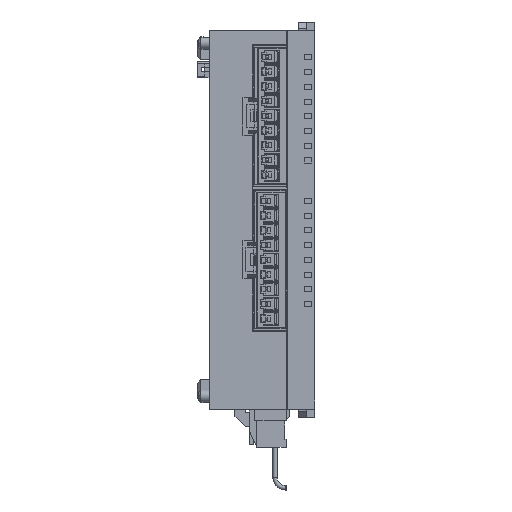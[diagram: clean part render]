
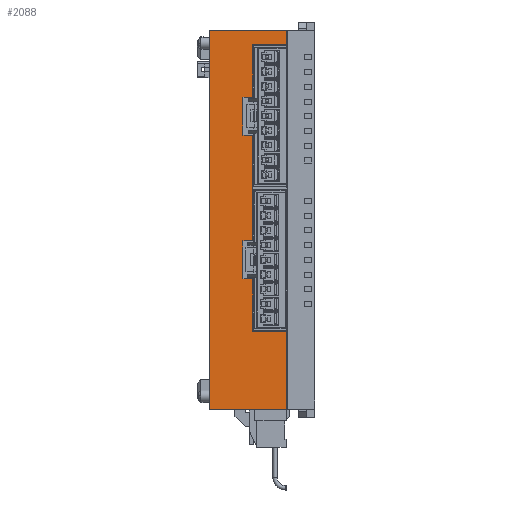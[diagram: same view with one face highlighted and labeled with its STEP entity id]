
A CAD part, top view. The second image highlights one B-rep face of the part: STEP entity #2088.
In plain terms, the highlighted planar face has unit normal (0, 0, 1).
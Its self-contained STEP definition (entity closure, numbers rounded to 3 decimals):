
#262 = EDGE_CURVE ( 'NONE', #370, #2444, #47077, .T. ) ;
#370 = VERTEX_POINT ( 'NONE', #47209 ) ;
#1053 = VERTEX_POINT ( 'NONE', #48413 ) ;
#2047 = ORIENTED_EDGE ( 'NONE', *, *, #2054, .F. ) ;
#2054 = EDGE_CURVE ( 'NONE', #2141, #2056, #50038, .T. ) ;
#2056 = VERTEX_POINT ( 'NONE', #49974 ) ;
#2058 = ORIENTED_EDGE ( 'NONE', *, *, #17627, .F. ) ;
#2069 = VERTEX_POINT ( 'NONE', #49995 ) ;
#2088 = ADVANCED_FACE ( 'NONE', ( #50078 ), #50080, .T. ) ;
#2127 = VERTEX_POINT ( 'NONE', #50150 ) ;
#2141 = VERTEX_POINT ( 'NONE', #50169 ) ;
#2144 = EDGE_LOOP ( 'NONE', ( #2058, #2047, #17374, #16766, #16873, #16937, #17894, #18002, #17935, #17515, #18867, #18725, #17595, #18564, #18030, #17865 ) ) ;
#2145 = EDGE_CURVE ( 'NONE', #2170, #16803, #50167, .T. ) ;
#2158 = VERTEX_POINT ( 'NONE', #50193 ) ;
#2170 = VERTEX_POINT ( 'NONE', #50247 ) ;
#2444 = VERTEX_POINT ( 'NONE', #50545 ) ;
#2658 = EDGE_CURVE ( 'NONE', #28044, #2444, #50964, .T. ) ;
#4833 = DIRECTION ( 'NONE',  ( 1., 0., 0. ) ) ;
#4843 = VECTOR ( 'NONE', #4867, 1000. ) ;
#4867 = DIRECTION ( 'NONE',  ( -1., 0., 0. ) ) ;
#5108 = CARTESIAN_POINT ( 'NONE',  ( -2.3, -26.6, 60. ) ) ;
#5109 = LINE ( 'NONE', #5108, #5120 ) ;
#5120 = VECTOR ( 'NONE', #4833, 1000. ) ;
#6369 = DIRECTION ( 'NONE',  ( -1., 0., 0. ) ) ;
#6370 = VECTOR ( 'NONE', #6369, 1000. ) ;
#6371 = CARTESIAN_POINT ( 'NONE',  ( -2.3, -5.05, 60. ) ) ;
#6372 = LINE ( 'NONE', #6371, #6370 ) ;
#6387 = CARTESIAN_POINT ( 'NONE',  ( -4.6, 29.05, 60. ) ) ;
#6419 = DIRECTION ( 'NONE',  ( 0., -1., 0. ) ) ;
#6420 = VECTOR ( 'NONE', #6419, 1000. ) ;
#6421 = CARTESIAN_POINT ( 'NONE',  ( -4.6, 29.05, 60. ) ) ;
#6422 = LINE ( 'NONE', #6421, #6420 ) ;
#6468 = CARTESIAN_POINT ( 'NONE',  ( -2.3, -5.05, 60. ) ) ;
#6475 = CARTESIAN_POINT ( 'NONE',  ( -4.6, 20.05, 60. ) ) ;
#6488 = DIRECTION ( 'NONE',  ( 1., 0., 0. ) ) ;
#6489 = VECTOR ( 'NONE', #6488, 1000. ) ;
#6490 = CARTESIAN_POINT ( 'NONE',  ( -4.6, -14.05, 60. ) ) ;
#6495 = LINE ( 'NONE', #6490, #6489 ) ;
#6502 = LINE ( 'NONE', #6507, #4843 ) ;
#6507 = CARTESIAN_POINT ( 'NONE',  ( 5.8, 41.6, 60. ) ) ;
#6510 = DIRECTION ( 'NONE',  ( 0., -1., 0. ) ) ;
#6511 = VECTOR ( 'NONE', #6510, 1000. ) ;
#6513 = CARTESIAN_POINT ( 'NONE',  ( -4.6, -5.05, 60. ) ) ;
#6514 = LINE ( 'NONE', #6513, #6511 ) ;
#6542 = LINE ( 'NONE', #6548, #6600 ) ;
#6544 = DIRECTION ( 'NONE',  ( 0., -1., 0. ) ) ;
#6545 = VECTOR ( 'NONE', #6544, 1000. ) ;
#6547 = DIRECTION ( 'NONE',  ( 1., 0., 0. ) ) ;
#6548 = CARTESIAN_POINT ( 'NONE',  ( -4.6, 20.05, 60. ) ) ;
#6553 = LINE ( 'NONE', #6561, #6545 ) ;
#6561 = CARTESIAN_POINT ( 'NONE',  ( -2.3, 41.6, 60. ) ) ;
#6562 = CARTESIAN_POINT ( 'NONE',  ( 5.8, 41.6, 60. ) ) ;
#6580 = CARTESIAN_POINT ( 'NONE',  ( -2.3, 20.05, 60. ) ) ;
#6581 = LINE ( 'NONE', #6580, #6635 ) ;
#6590 = CARTESIAN_POINT ( 'NONE',  ( -2.3, 41.6, 60. ) ) ;
#6600 = VECTOR ( 'NONE', #6547, 1000. ) ;
#6603 = DIRECTION ( 'NONE',  ( 0., -1., 0. ) ) ;
#6604 = VECTOR ( 'NONE', #6603, 1000. ) ;
#6607 = CARTESIAN_POINT ( 'NONE',  ( 5.8, 45., 60. ) ) ;
#6608 = LINE ( 'NONE', #6607, #6604 ) ;
#6634 = DIRECTION ( 'NONE',  ( 0., -1., 0. ) ) ;
#6635 = VECTOR ( 'NONE', #6634, 1000. ) ;
#10390 = LINE ( 'NONE', #10401, #10433 ) ;
#10400 = DIRECTION ( 'NONE',  ( 0., -1., 0. ) ) ;
#10401 = CARTESIAN_POINT ( 'NONE',  ( -12.5, 45., 60. ) ) ;
#10407 = CARTESIAN_POINT ( 'NONE',  ( -12.5, -45., 60. ) ) ;
#10432 = CARTESIAN_POINT ( 'NONE',  ( -12.5, 45., 60. ) ) ;
#10433 = VECTOR ( 'NONE', #10400, 1000. ) ;
#16676 = EDGE_CURVE ( 'NONE', #17404, #2158, #6372, .T. ) ;
#16766 = ORIENTED_EDGE ( 'NONE', *, *, #17462, .F. ) ;
#16803 = VERTEX_POINT ( 'NONE', #6387 ) ;
#16873 = ORIENTED_EDGE ( 'NONE', *, *, #16676, .F. ) ;
#16883 = EDGE_CURVE ( 'NONE', #16803, #17389, #6422, .T. ) ;
#16937 = ORIENTED_EDGE ( 'NONE', *, *, #18278, .F. ) ;
#17272 = EDGE_CURVE ( 'NONE', #2069, #2141, #6495, .T. ) ;
#17374 = ORIENTED_EDGE ( 'NONE', *, *, #17272, .F. ) ;
#17389 = VERTEX_POINT ( 'NONE', #6475 ) ;
#17404 = VERTEX_POINT ( 'NONE', #6468 ) ;
#17462 = EDGE_CURVE ( 'NONE', #2158, #2069, #6514, .T. ) ;
#17497 = EDGE_CURVE ( 'NONE', #17975, #18164, #6502, .T. ) ;
#17515 = ORIENTED_EDGE ( 'NONE', *, *, #17874, .F. ) ;
#17595 = ORIENTED_EDGE ( 'NONE', *, *, #45982, .T. ) ;
#17627 = EDGE_CURVE ( 'NONE', #2056, #370, #5109, .T. ) ;
#17865 = ORIENTED_EDGE ( 'NONE', *, *, #262, .F. ) ;
#17874 = EDGE_CURVE ( 'NONE', #18164, #2170, #6553, .T. ) ;
#17894 = ORIENTED_EDGE ( 'NONE', *, *, #17908, .F. ) ;
#17908 = EDGE_CURVE ( 'NONE', #17389, #2127, #6542, .T. ) ;
#17935 = ORIENTED_EDGE ( 'NONE', *, *, #2145, .F. ) ;
#17975 = VERTEX_POINT ( 'NONE', #6562 ) ;
#18002 = ORIENTED_EDGE ( 'NONE', *, *, #16883, .F. ) ;
#18030 = ORIENTED_EDGE ( 'NONE', *, *, #2658, .T. ) ;
#18164 = VERTEX_POINT ( 'NONE', #6590 ) ;
#18278 = EDGE_CURVE ( 'NONE', #2127, #17404, #6581, .T. ) ;
#18564 = ORIENTED_EDGE ( 'NONE', *, *, #28063, .T. ) ;
#18672 = EDGE_CURVE ( 'NONE', #1053, #17975, #6608, .T. ) ;
#18725 = ORIENTED_EDGE ( 'NONE', *, *, #18672, .F. ) ;
#18867 = ORIENTED_EDGE ( 'NONE', *, *, #17497, .F. ) ;
#28044 = VERTEX_POINT ( 'NONE', #10407 ) ;
#28063 = EDGE_CURVE ( 'NONE', #28076, #28044, #10390, .T. ) ;
#28076 = VERTEX_POINT ( 'NONE', #10432 ) ;
#37114 = LINE ( 'NONE', #37135, #37133 ) ;
#37133 = VECTOR ( 'NONE', #37216, 1000. ) ;
#37135 = CARTESIAN_POINT ( 'NONE',  ( -12.5, 45., 60. ) ) ;
#37216 = DIRECTION ( 'NONE',  ( -1., 0., 0. ) ) ;
#45982 = EDGE_CURVE ( 'NONE', #1053, #28076, #37114, .T. ) ;
#47074 = DIRECTION ( 'NONE',  ( 0., -1., 0. ) ) ;
#47075 = VECTOR ( 'NONE', #47074, 1000. ) ;
#47076 = CARTESIAN_POINT ( 'NONE',  ( 5.8, 45., 60. ) ) ;
#47077 = LINE ( 'NONE', #47076, #47075 ) ;
#47209 = CARTESIAN_POINT ( 'NONE',  ( 5.8, -26.6, 60. ) ) ;
#48413 = CARTESIAN_POINT ( 'NONE',  ( 5.8, 45., 60. ) ) ;
#49974 = CARTESIAN_POINT ( 'NONE',  ( -2.3, -26.6, 60. ) ) ;
#49995 = CARTESIAN_POINT ( 'NONE',  ( -4.6, -14.05, 60. ) ) ;
#50034 = DIRECTION ( 'NONE',  ( 0., -1., 0. ) ) ;
#50035 = VECTOR ( 'NONE', #50034, 1000. ) ;
#50036 = CARTESIAN_POINT ( 'NONE',  ( -2.3, -14.05, 60. ) ) ;
#50038 = LINE ( 'NONE', #50036, #50035 ) ;
#50059 = DIRECTION ( 'NONE',  ( 1., 0., 0. ) ) ;
#50060 = DIRECTION ( 'NONE',  ( 0., 0., 1. ) ) ;
#50061 = CARTESIAN_POINT ( 'NONE',  ( -12.5, -45., 60. ) ) ;
#50062 = AXIS2_PLACEMENT_3D ( 'NONE', #50061, #50060, #50059 ) ;
#50078 = FACE_OUTER_BOUND ( 'NONE', #2144, .T. ) ;
#50080 = PLANE ( 'NONE',  #50062 ) ;
#50150 = CARTESIAN_POINT ( 'NONE',  ( -2.3, 20.05, 60. ) ) ;
#50160 = DIRECTION ( 'NONE',  ( -1., 0., 0. ) ) ;
#50161 = VECTOR ( 'NONE', #50160, 1000. ) ;
#50162 = CARTESIAN_POINT ( 'NONE',  ( -2.3, 29.05, 60. ) ) ;
#50167 = LINE ( 'NONE', #50162, #50161 ) ;
#50169 = CARTESIAN_POINT ( 'NONE',  ( -2.3, -14.05, 60. ) ) ;
#50193 = CARTESIAN_POINT ( 'NONE',  ( -4.6, -5.05, 60. ) ) ;
#50247 = CARTESIAN_POINT ( 'NONE',  ( -2.3, 29.05, 60. ) ) ;
#50545 = CARTESIAN_POINT ( 'NONE',  ( 5.8, -45., 60. ) ) ;
#50961 = DIRECTION ( 'NONE',  ( 1., 0., 0. ) ) ;
#50962 = VECTOR ( 'NONE', #50961, 1000. ) ;
#50963 = CARTESIAN_POINT ( 'NONE',  ( -12.5, -45., 60. ) ) ;
#50964 = LINE ( 'NONE', #50963, #50962 ) ;
